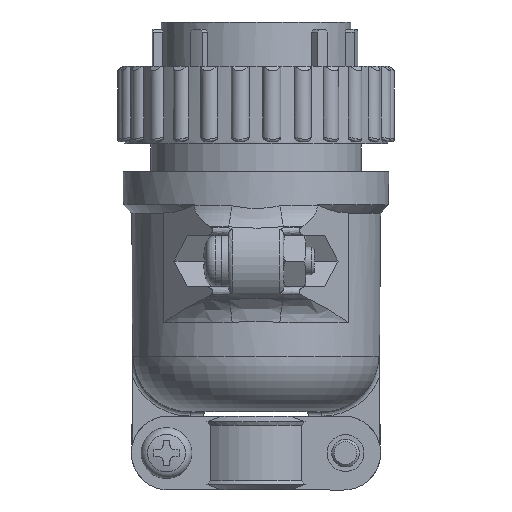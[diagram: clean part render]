
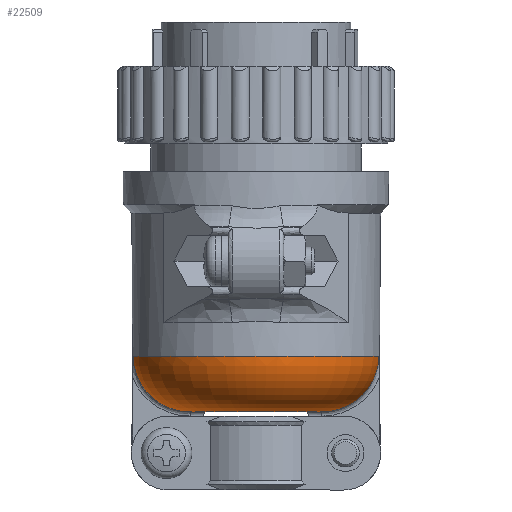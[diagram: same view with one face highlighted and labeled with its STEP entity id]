
A CAD part, front view. The second image highlights one B-rep face of the part: STEP entity #22509.
In plain terms, the highlighted toroidal (fillet/blend) face has major radius 7.5 mm and minor radius 6 mm.
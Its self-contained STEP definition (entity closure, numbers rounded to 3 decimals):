
#47 = EDGE_CURVE ( 'NONE', #11573, #26972, #18503, .T. ) ;
#426 = CARTESIAN_POINT ( 'NONE',  ( 11.135, -2.431, -40.767 ) ) ;
#606 = CARTESIAN_POINT ( 'NONE',  ( 11.983, -2.422, -39.919 ) ) ;
#1358 = EDGE_CURVE ( 'NONE', #8306, #26972, #37761, .T. ) ;
#2681 = CARTESIAN_POINT ( 'NONE',  ( -9.24, -2.456, -41.838 ) ) ;
#2869 = DIRECTION ( 'NONE',  ( 0., 0., -1. ) ) ;
#3048 = CARTESIAN_POINT ( 'NONE',  ( -12.444, -2.418, -39.259 ) ) ;
#3399 = CARTESIAN_POINT ( 'NONE',  ( -13.283, -2.411, -36.604 ) ) ;
#3619 = EDGE_CURVE ( 'NONE', #8306, #40619, #4430, .T. ) ;
#3850 = CARTESIAN_POINT ( 'NONE',  ( 0., 0., -36.2 ) ) ;
#4430 = B_SPLINE_CURVE_WITH_KNOTS ( 'NONE', 3,
 ( #30282, #12834, #38423, #34359, #13011, #34175, #17629, #42482, #42671, #46707, #38060, #426, #30090, #21316, #606, #13364, #25830, #21142, #13195, #25454, #50751, #42843 ),
 .UNSPECIFIED., .F., .F.,
 ( 4, 2, 2, 2, 2, 2, 2, 2, 2, 2, 4 ),
 ( 0., 0.001, 0.002, 0.002, 0.004, 0.004, 0.005, 0.006, 0.007, 0.008, 0.01 ),
 .UNSPECIFIED. ) ;
#5155 = CARTESIAN_POINT ( 'NONE',  ( -13.283, -2.411, -36.2 ) ) ;
#7858 = CARTESIAN_POINT ( 'NONE',  ( -7.071, -2.5, -42.2 ) ) ;
#8306 = VERTEX_POINT ( 'NONE', #36630 ) ;
#8826 = AXIS2_PLACEMENT_3D ( 'NONE', #28837, #19705, #49301 ) ;
#9206 = EDGE_LOOP ( 'NONE', ( #52617, #19608, #34340, #20615 ) ) ;
#11329 = AXIS2_PLACEMENT_3D ( 'NONE', #3850, #46605, #34254 ) ;
#11573 = VERTEX_POINT ( 'NONE', #5155 ) ;
#12834 = CARTESIAN_POINT ( 'NONE',  ( 7.474, -2.49, -42.2 ) ) ;
#13011 = CARTESIAN_POINT ( 'NONE',  ( 8.653, -2.466, -42.013 ) ) ;
#13195 = CARTESIAN_POINT ( 'NONE',  ( 13.077, -2.412, -37.796 ) ) ;
#13364 = CARTESIAN_POINT ( 'NONE',  ( 12.441, -2.418, -39.264 ) ) ;
#15332 = TOROIDAL_SURFACE ( 'NONE', #8826, 7.5, 6. ) ;
#16156 = CARTESIAN_POINT ( 'NONE',  ( -12.642, -2.416, -38.904 ) ) ;
#16525 = CARTESIAN_POINT ( 'NONE',  ( -7.877, -2.481, -42.164 ) ) ;
#17629 = CARTESIAN_POINT ( 'NONE',  ( 9.231, -2.456, -41.842 ) ) ;
#18503 = B_SPLINE_CURVE_WITH_KNOTS ( 'NONE', 3,
 ( #24520, #3399, #53743, #28476, #49664, #16156, #3048, #28651, #32908, #23971, #45796, #50008, #54284, #45441, #28293, #2681, #32545, #50193, #42136, #16525, #38237, #7858 ),
 .UNSPECIFIED., .F., .F.,
 ( 4, 2, 2, 2, 2, 2, 2, 2, 2, 2, 4 ),
 ( 0., 0.001, 0.002, 0.004, 0.005, 0.005, 0.006, 0.007, 0.008, 0.008, 0.01 ),
 .UNSPECIFIED. ) ;
#19608 = ORIENTED_EDGE ( 'NONE', *, *, #3619, .T. ) ;
#19705 = DIRECTION ( 'NONE',  ( 0., 0., 1. ) ) ;
#20615 = ORIENTED_EDGE ( 'NONE', *, *, #47, .T. ) ;
#20632 = FACE_OUTER_BOUND ( 'NONE', #9206, .T. ) ;
#21142 = CARTESIAN_POINT ( 'NONE',  ( 12.956, -2.413, -38.176 ) ) ;
#21316 = CARTESIAN_POINT ( 'NONE',  ( 11.723, -2.424, -40.221 ) ) ;
#21543 = CARTESIAN_POINT ( 'NONE',  ( -7.071, -2.5, -42.2 ) ) ;
#22509 = ADVANCED_FACE ( 'NONE', ( #20632 ), #15332, .T. ) ;
#23418 = EDGE_CURVE ( 'NONE', #11573, #40619, #36826, .T. ) ;
#23933 = CARTESIAN_POINT ( 'NONE',  ( 13.283, -2.411, -36.2 ) ) ;
#23971 = CARTESIAN_POINT ( 'NONE',  ( -11.294, -2.429, -40.63 ) ) ;
#24520 = CARTESIAN_POINT ( 'NONE',  ( -13.283, -2.411, -36.2 ) ) ;
#25454 = CARTESIAN_POINT ( 'NONE',  ( 13.241, -2.411, -37.007 ) ) ;
#25830 = CARTESIAN_POINT ( 'NONE',  ( 12.64, -2.416, -38.908 ) ) ;
#26972 = VERTEX_POINT ( 'NONE', #21543 ) ;
#28293 = CARTESIAN_POINT ( 'NONE',  ( -9.801, -2.447, -41.62 ) ) ;
#28476 = CARTESIAN_POINT ( 'NONE',  ( -13.078, -2.412, -37.793 ) ) ;
#28651 = CARTESIAN_POINT ( 'NONE',  ( -11.987, -2.422, -39.914 ) ) ;
#28837 = CARTESIAN_POINT ( 'NONE',  ( 0., 0., -36.2 ) ) ;
#30090 = CARTESIAN_POINT ( 'NONE',  ( 11.288, -2.429, -40.634 ) ) ;
#30282 = CARTESIAN_POINT ( 'NONE',  ( 7.071, -2.5, -42.2 ) ) ;
#32191 = DIRECTION ( 'NONE',  ( -1., 0., 0. ) ) ;
#32545 = CARTESIAN_POINT ( 'NONE',  ( -9.048, -2.459, -41.902 ) ) ;
#32908 = CARTESIAN_POINT ( 'NONE',  ( -11.728, -2.424, -40.216 ) ) ;
#34175 = CARTESIAN_POINT ( 'NONE',  ( 9.039, -2.459, -41.905 ) ) ;
#34254 = DIRECTION ( 'NONE',  ( -1., 0., 0. ) ) ;
#34340 = ORIENTED_EDGE ( 'NONE', *, *, #23418, .F. ) ;
#34359 = CARTESIAN_POINT ( 'NONE',  ( 8.459, -2.469, -42.058 ) ) ;
#36630 = CARTESIAN_POINT ( 'NONE',  ( 7.071, -2.5, -42.2 ) ) ;
#36826 = CIRCLE ( 'NONE', #11329, 13.5 ) ;
#37761 = CIRCLE ( 'NONE', #40546, 7.5 ) ;
#38060 = CARTESIAN_POINT ( 'NONE',  ( 10.817, -2.434, -41.013 ) ) ;
#38237 = CARTESIAN_POINT ( 'NONE',  ( -7.474, -2.49, -42.2 ) ) ;
#38423 = CARTESIAN_POINT ( 'NONE',  ( 7.872, -2.481, -42.165 ) ) ;
#40546 = AXIS2_PLACEMENT_3D ( 'NONE', #53195, #2869, #32191 ) ;
#40619 = VERTEX_POINT ( 'NONE', #23933 ) ;
#42136 = CARTESIAN_POINT ( 'NONE',  ( -8.468, -2.469, -42.056 ) ) ;
#42482 = CARTESIAN_POINT ( 'NONE',  ( 9.793, -2.447, -41.624 ) ) ;
#42671 = CARTESIAN_POINT ( 'NONE',  ( 10.149, -2.443, -41.446 ) ) ;
#42843 = CARTESIAN_POINT ( 'NONE',  ( 13.283, -2.411, -36.2 ) ) ;
#45441 = CARTESIAN_POINT ( 'NONE',  ( -10.156, -2.442, -41.442 ) ) ;
#45796 = CARTESIAN_POINT ( 'NONE',  ( -11.14, -2.431, -40.762 ) ) ;
#46605 = DIRECTION ( 'NONE',  ( 0., 0., 1. ) ) ;
#46707 = CARTESIAN_POINT ( 'NONE',  ( 10.654, -2.436, -41.128 ) ) ;
#49301 = DIRECTION ( 'NONE',  ( 1., 0., 0. ) ) ;
#49664 = CARTESIAN_POINT ( 'NONE',  ( -12.957, -2.413, -38.173 ) ) ;
#50008 = CARTESIAN_POINT ( 'NONE',  ( -10.824, -2.434, -41.008 ) ) ;
#50193 = CARTESIAN_POINT ( 'NONE',  ( -8.663, -2.466, -42.011 ) ) ;
#50751 = CARTESIAN_POINT ( 'NONE',  ( 13.283, -2.411, -36.604 ) ) ;
#52617 = ORIENTED_EDGE ( 'NONE', *, *, #1358, .F. ) ;
#53195 = CARTESIAN_POINT ( 'NONE',  ( 0., 0., -42.2 ) ) ;
#53743 = CARTESIAN_POINT ( 'NONE',  ( -13.242, -2.411, -37.005 ) ) ;
#54284 = CARTESIAN_POINT ( 'NONE',  ( -10.661, -2.436, -41.123 ) ) ;
